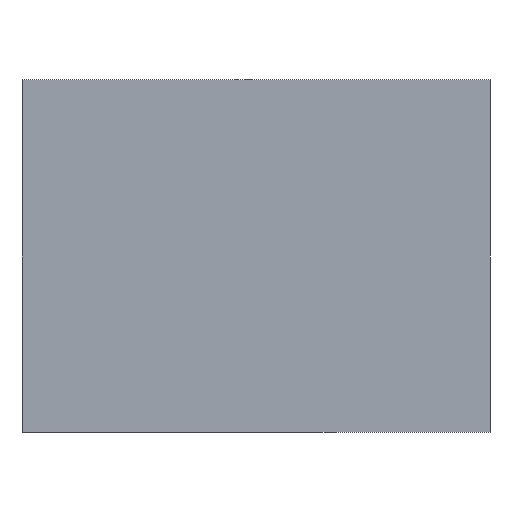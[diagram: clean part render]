
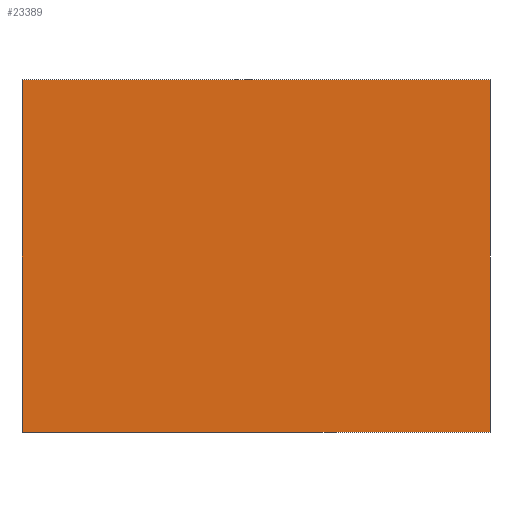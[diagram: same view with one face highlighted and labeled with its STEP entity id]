
A CAD part, front view. The second image highlights one B-rep face of the part: STEP entity #23389.
In plain terms, the highlighted planar face has unit normal (0, -1, 0).
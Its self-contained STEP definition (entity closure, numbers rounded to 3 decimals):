
#223 = CARTESIAN_POINT ( 'NONE',  ( -170., -6., 113.477 ) ) ;
#869 = LINE ( 'NONE', #18968, #10844 ) ;
#2253 = DIRECTION ( 'NONE',  ( 0., 0., 1. ) ) ;
#2363 = CARTESIAN_POINT ( 'NONE',  ( 251.516, -6., -190. ) ) ;
#2526 = FACE_OUTER_BOUND ( 'NONE', #6968, .T. ) ;
#2845 = VECTOR ( 'NONE', #15359, 1000. ) ;
#2924 = DIRECTION ( 'NONE',  ( 0., 0., -1. ) ) ;
#3627 = CARTESIAN_POINT ( 'NONE',  ( -251.515, -6., 188.944 ) ) ;
#4434 = EDGE_CURVE ( 'NONE', #6947, #21164, #5536, .T. ) ;
#4478 = VERTEX_POINT ( 'NONE', #2363 ) ;
#4763 = EDGE_CURVE ( 'NONE', #13934, #6947, #5343, .T. ) ;
#5343 = LINE ( 'NONE', #11603, #2845 ) ;
#5536 = LINE ( 'NONE', #8324, #8346 ) ;
#5661 = EDGE_CURVE ( 'NONE', #4478, #13934, #16155, .T. ) ;
#6947 = VERTEX_POINT ( 'NONE', #3627 ) ;
#6968 = EDGE_LOOP ( 'NONE', ( #14973, #16547, #15328, #10879 ) ) ;
#8212 = PLANE ( 'NONE',  #21524 ) ;
#8324 = CARTESIAN_POINT ( 'NONE',  ( -251.515, -6., 188.944 ) ) ;
#8346 = VECTOR ( 'NONE', #24326, 1000. ) ;
#9559 = CARTESIAN_POINT ( 'NONE',  ( 251.516, -6., 188.944 ) ) ;
#10844 = VECTOR ( 'NONE', #2924, 1000. ) ;
#10879 = ORIENTED_EDGE ( 'NONE', *, *, #4434, .F. ) ;
#11479 = VECTOR ( 'NONE', #23006, 1000. ) ;
#11603 = CARTESIAN_POINT ( 'NONE',  ( -251.515, -6., 188.944 ) ) ;
#13004 = CARTESIAN_POINT ( 'NONE',  ( -251.515, -6., -190. ) ) ;
#13934 = VERTEX_POINT ( 'NONE', #18545 ) ;
#14191 = DIRECTION ( 'NONE',  ( 0., 1., 0. ) ) ;
#14973 = ORIENTED_EDGE ( 'NONE', *, *, #4763, .F. ) ;
#15328 = ORIENTED_EDGE ( 'NONE', *, *, #19493, .F. ) ;
#15359 = DIRECTION ( 'NONE',  ( 0., 0., 1. ) ) ;
#16155 = LINE ( 'NONE', #13004, #11479 ) ;
#16547 = ORIENTED_EDGE ( 'NONE', *, *, #5661, .F. ) ;
#18545 = CARTESIAN_POINT ( 'NONE',  ( -251.515, -6., -190. ) ) ;
#18968 = CARTESIAN_POINT ( 'NONE',  ( 251.516, -6., 188.944 ) ) ;
#19493 = EDGE_CURVE ( 'NONE', #21164, #4478, #869, .T. ) ;
#21164 = VERTEX_POINT ( 'NONE', #9559 ) ;
#21524 = AXIS2_PLACEMENT_3D ( 'NONE', #223, #14191, #2253 ) ;
#23006 = DIRECTION ( 'NONE',  ( -1., 0., 0. ) ) ;
#23389 = ADVANCED_FACE ( 'NONE', ( #2526 ), #8212, .F. ) ;
#24326 = DIRECTION ( 'NONE',  ( 1., 0., 0. ) ) ;
